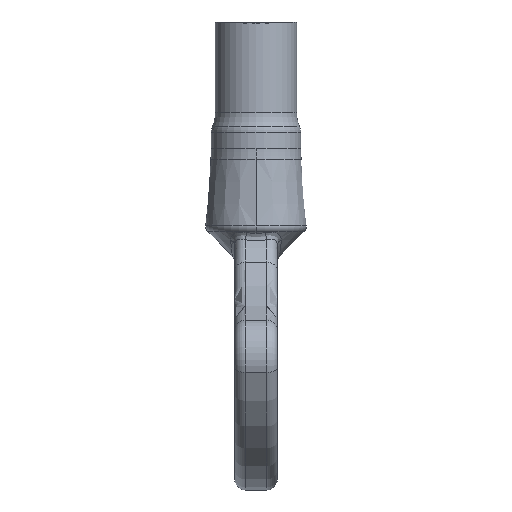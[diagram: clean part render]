
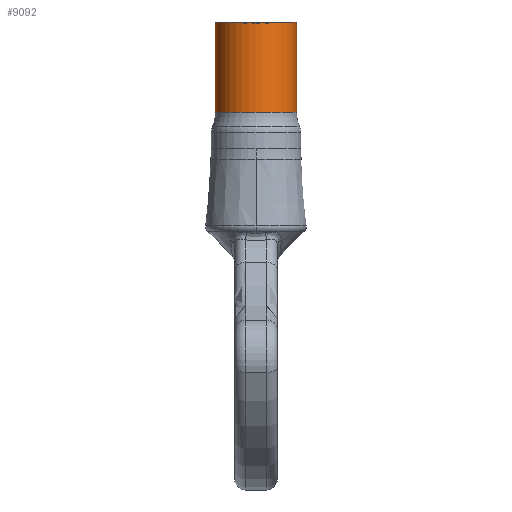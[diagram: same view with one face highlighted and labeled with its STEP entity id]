
A CAD part, front view. The second image highlights one B-rep face of the part: STEP entity #9092.
In plain terms, the highlighted cylindrical face has radius 5.7 mm (diameter 11.4 mm), a partial arc.
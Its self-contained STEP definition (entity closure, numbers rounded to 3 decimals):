
#516 = CARTESIAN_POINT ( 'NONE',  ( -5.7, 0., 5.828 ) ) ;
#543 = VERTEX_POINT ( 'NONE', #15430 ) ;
#1518 = CIRCLE ( 'NONE', #17791, 5.7 ) ;
#1588 = VECTOR ( 'NONE', #12211, 1000. ) ;
#2092 = ORIENTED_EDGE ( 'NONE', *, *, #20698, .T. ) ;
#3407 = EDGE_CURVE ( 'NONE', #4617, #543, #20010, .T. ) ;
#3481 = EDGE_CURVE ( 'NONE', #14158, #543, #14988, .T. ) ;
#4050 = ORIENTED_EDGE ( 'NONE', *, *, #3407, .F. ) ;
#4617 = VERTEX_POINT ( 'NONE', #516 ) ;
#4661 = CYLINDRICAL_SURFACE ( 'NONE', #13009, 5.7 ) ;
#4939 = CARTESIAN_POINT ( 'NONE',  ( 5.7, 0., 18.45 ) ) ;
#5331 = EDGE_CURVE ( 'NONE', #4617, #11006, #1518, .T. ) ;
#5480 = DIRECTION ( 'NONE',  ( 1., 0., 0. ) ) ;
#5871 = DIRECTION ( 'NONE',  ( 0., 0., 1. ) ) ;
#6340 = LINE ( 'NONE', #20421, #1588 ) ;
#6829 = VECTOR ( 'NONE', #10871, 1000. ) ;
#8471 = ORIENTED_EDGE ( 'NONE', *, *, #5331, .T. ) ;
#9092 = ADVANCED_FACE ( 'NONE', ( #10505 ), #4661, .T. ) ;
#9191 = CARTESIAN_POINT ( 'NONE',  ( 0., 0., 3.5 ) ) ;
#10505 = FACE_OUTER_BOUND ( 'NONE', #20050, .T. ) ;
#10871 = DIRECTION ( 'NONE',  ( 0., 0., 1. ) ) ;
#11006 = VERTEX_POINT ( 'NONE', #16286 ) ;
#12211 = DIRECTION ( 'NONE',  ( 0., 0., 1. ) ) ;
#13009 = AXIS2_PLACEMENT_3D ( 'NONE', #9191, #5871, #19345 ) ;
#13693 = CARTESIAN_POINT ( 'NONE',  ( 0., 0., 5.828 ) ) ;
#14130 = ORIENTED_EDGE ( 'NONE', *, *, #3481, .T. ) ;
#14158 = VERTEX_POINT ( 'NONE', #4939 ) ;
#14988 = CIRCLE ( 'NONE', #15503, 5.7 ) ;
#15332 = DIRECTION ( 'NONE',  ( 0., 0., 1. ) ) ;
#15430 = CARTESIAN_POINT ( 'NONE',  ( -5.7, 0., 18.45 ) ) ;
#15503 = AXIS2_PLACEMENT_3D ( 'NONE', #17205, #18804, #5480 ) ;
#16286 = CARTESIAN_POINT ( 'NONE',  ( 5.7, 0., 5.828 ) ) ;
#17205 = CARTESIAN_POINT ( 'NONE',  ( 0., 0., 18.45 ) ) ;
#17791 = AXIS2_PLACEMENT_3D ( 'NONE', #13693, #15332, #18771 ) ;
#18771 = DIRECTION ( 'NONE',  ( -1., 0., 0. ) ) ;
#18804 = DIRECTION ( 'NONE',  ( 0., 0., -1. ) ) ;
#19345 = DIRECTION ( 'NONE',  ( 1., 0., 0. ) ) ;
#20010 = LINE ( 'NONE', #20923, #6829 ) ;
#20050 = EDGE_LOOP ( 'NONE', ( #4050, #8471, #2092, #14130 ) ) ;
#20421 = CARTESIAN_POINT ( 'NONE',  ( 5.7, 0., 3.5 ) ) ;
#20698 = EDGE_CURVE ( 'NONE', #11006, #14158, #6340, .T. ) ;
#20923 = CARTESIAN_POINT ( 'NONE',  ( -5.7, 0., 3.5 ) ) ;
